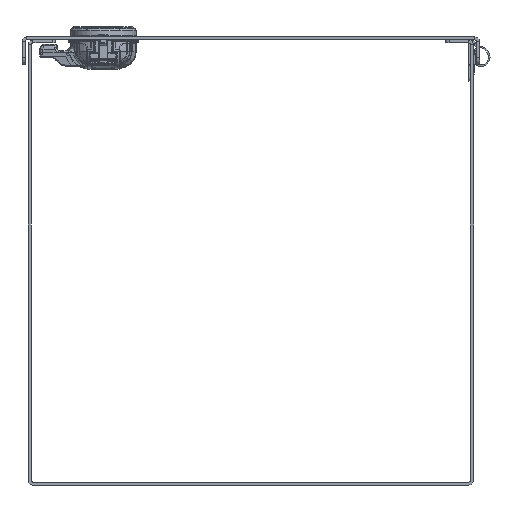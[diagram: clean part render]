
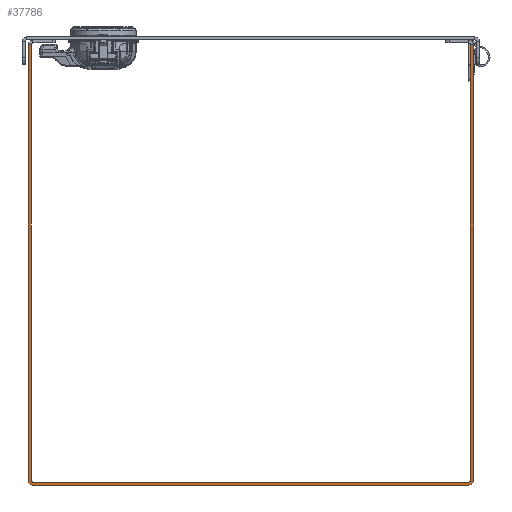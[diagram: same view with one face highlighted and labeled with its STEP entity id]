
A CAD part, front view. The second image highlights one B-rep face of the part: STEP entity #37786.
In plain terms, the highlighted planar face has unit normal (0, -1, 0).
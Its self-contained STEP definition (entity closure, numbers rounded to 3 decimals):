
#3051=FACE_OUTER_BOUND('',#5343,.T.);
#5343=EDGE_LOOP('',(#27574,#27575,#27576,#27577,#27578,#27579,#27580,#27581,
#27582,#27583,#27584,#27585));
#7574=LINE('',#54156,#10957);
#8327=LINE('',#56409,#11710);
#8334=LINE('',#56431,#11717);
#8341=LINE('',#56455,#11724);
#8343=LINE('',#56461,#11726);
#8344=LINE('',#56464,#11727);
#8345=LINE('',#56466,#11728);
#8346=LINE('',#56470,#11729);
#10957=VECTOR('',#43809,0.394);
#11710=VECTOR('',#46072,0.394);
#11717=VECTOR('',#46099,0.394);
#11724=VECTOR('',#46124,0.394);
#11726=VECTOR('',#46130,0.394);
#11727=VECTOR('',#46133,0.394);
#11728=VECTOR('',#46134,0.394);
#11729=VECTOR('',#46137,0.394);
#14443=CIRCLE('',#40636,0.031);
#14444=CIRCLE('',#40637,0.031);
#14445=CIRCLE('',#40638,0.086);
#14446=CIRCLE('',#40639,0.086);
#15769=VERTEX_POINT('',#54153);
#15770=VERTEX_POINT('',#54155);
#16515=VERTEX_POINT('',#56404);
#16518=VERTEX_POINT('',#56419);
#16520=VERTEX_POINT('',#56430);
#16528=VERTEX_POINT('',#56454);
#16529=VERTEX_POINT('',#56458);
#16530=VERTEX_POINT('',#56460);
#16531=VERTEX_POINT('',#56462);
#16532=VERTEX_POINT('',#56465);
#16533=VERTEX_POINT('',#56467);
#16534=VERTEX_POINT('',#56469);
#19498=EDGE_CURVE('',#15770,#15769,#7574,.T.);
#20628=EDGE_CURVE('',#16515,#15770,#8327,.T.);
#20638=EDGE_CURVE('',#16520,#16518,#8334,.T.);
#20650=EDGE_CURVE('',#16515,#16528,#8341,.T.);
#20652=EDGE_CURVE('',#16529,#15769,#14443,.T.);
#20653=EDGE_CURVE('',#16529,#16530,#8343,.T.);
#20654=EDGE_CURVE('',#16530,#16531,#14444,.T.);
#20655=EDGE_CURVE('',#16531,#16520,#8344,.T.);
#20656=EDGE_CURVE('',#16532,#16518,#8345,.T.);
#20657=EDGE_CURVE('',#16533,#16532,#14445,.T.);
#20658=EDGE_CURVE('',#16534,#16533,#8346,.T.);
#20659=EDGE_CURVE('',#16534,#16528,#14446,.T.);
#27574=ORIENTED_EDGE('',*,*,#20628,.T.);
#27575=ORIENTED_EDGE('',*,*,#19498,.T.);
#27576=ORIENTED_EDGE('',*,*,#20652,.F.);
#27577=ORIENTED_EDGE('',*,*,#20653,.T.);
#27578=ORIENTED_EDGE('',*,*,#20654,.T.);
#27579=ORIENTED_EDGE('',*,*,#20655,.T.);
#27580=ORIENTED_EDGE('',*,*,#20638,.T.);
#27581=ORIENTED_EDGE('',*,*,#20656,.F.);
#27582=ORIENTED_EDGE('',*,*,#20657,.F.);
#27583=ORIENTED_EDGE('',*,*,#20658,.F.);
#27584=ORIENTED_EDGE('',*,*,#20659,.T.);
#27585=ORIENTED_EDGE('',*,*,#20650,.F.);
#36635=PLANE('',#40635);
#37786=ADVANCED_FACE('',(#3051),#36635,.T.);
#40635=AXIS2_PLACEMENT_3D('',#56457,#46126,#46127);
#40636=AXIS2_PLACEMENT_3D('',#56459,#46128,#46129);
#40637=AXIS2_PLACEMENT_3D('',#56463,#46131,#46132);
#40638=AXIS2_PLACEMENT_3D('',#56468,#46135,#46136);
#40639=AXIS2_PLACEMENT_3D('',#56471,#46138,#46139);
#43809=DIRECTION('',(0.,0.,-1.));
#46072=DIRECTION('',(-1.,0.,0.));
#46099=DIRECTION('',(-1.,0.,0.));
#46124=DIRECTION('',(0.,0.,-1.));
#46126=DIRECTION('center_axis',(0.,-1.,0.));
#46127=DIRECTION('ref_axis',(0.,0.,-1.));
#46128=DIRECTION('center_axis',(0.,-1.,0.));
#46129=DIRECTION('ref_axis',(0.,0.,
-1.));
#46130=DIRECTION('',(-1.,0.,0.));
#46131=DIRECTION('center_axis',(0.,1.,0.));
#46132=DIRECTION('ref_axis',(0.,0.,
-1.));
#46133=DIRECTION('',(0.,0.,1.));
#46134=DIRECTION('',(0.,0.,1.));
#46135=DIRECTION('center_axis',(0.,1.,0.));
#46136=DIRECTION('ref_axis',(0.,0.,
-1.));
#46137=DIRECTION('',(-1.,0.,0.));
#46138=DIRECTION('center_axis',(0.,-1.,0.));
#46139=DIRECTION('ref_axis',(0.,0.,
-1.));
#54153=CARTESIAN_POINT('',(3.945,-60.,0.086));
#54155=CARTESIAN_POINT('',(3.945,-60.,7.914));
#54156=CARTESIAN_POINT('',(3.945,-60.,8.));
#56404=CARTESIAN_POINT('',(4.,-60.,7.914));
#56409=CARTESIAN_POINT('',(-0.028,-60.,7.914));
#56419=CARTESIAN_POINT('',(-4.,-60.,7.914));
#56430=CARTESIAN_POINT('',(-3.945,-60.,7.914));
#56431=CARTESIAN_POINT('',(-3.973,-60.,7.914));
#56454=CARTESIAN_POINT('',(4.,-60.,0.086));
#56455=CARTESIAN_POINT('',(4.,-60.,8.));
#56457=CARTESIAN_POINT('Origin',(-4.,-60.,0.));
#56458=CARTESIAN_POINT('',(3.914,-60.,0.055));
#56459=CARTESIAN_POINT('Origin',(3.914,-60.,0.086));
#56460=CARTESIAN_POINT('',(-3.914,-60.,0.055));
#56461=CARTESIAN_POINT('',(4.,-60.,0.055));
#56462=CARTESIAN_POINT('',(-3.945,-60.,0.086));
#56463=CARTESIAN_POINT('Origin',(-3.914,-60.,0.086));
#56464=CARTESIAN_POINT('',(-3.945,-60.,0.));
#56465=CARTESIAN_POINT('',(-4.,-60.,0.086));
#56466=CARTESIAN_POINT('',(-4.,-60.,0.));
#56467=CARTESIAN_POINT('',(-3.914,-60.,0.));
#56468=CARTESIAN_POINT('Origin',(-3.914,-60.,0.086));
#56469=CARTESIAN_POINT('',(3.914,-60.,0.));
#56470=CARTESIAN_POINT('',(4.,-60.,0.));
#56471=CARTESIAN_POINT('Origin',(3.914,-60.,0.086));
